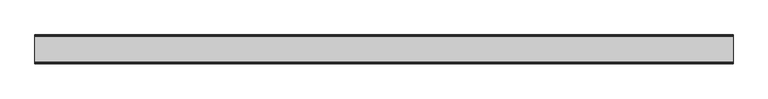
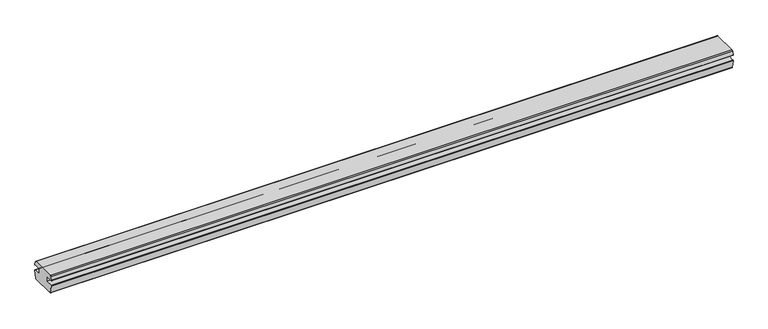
"""IFC4 building model written with IfcOpenShell, lengths in millimetres: proxy geometry, Weiku - Montante - Divisor fixo 02.2.01.041 : Weiku - Montante - Divisor fixo 02.2.01.041."""

from ifc_helpers import new_model, si_unit, point, frame, frame_2d, origin, place, context, project, spatial, polyline, circle_curve, trimmed, segment, composite_curve, outline, extrude, source, transform, mapped, element, save


def generic_models_12b671b4(model_context):
    return source(origin(), model_context, "Body", "SweptSolid", [
        extrude(outline(composite_curve([segment(polyline([(-33.0007245, 50.0), (33.0007245, 50.0)]), True, "CONTINUOUS"), segment(trimmed(circle_curve(frame_2d((33.0007245, 47.0)), 3.0), [point((33.0007245, 50.0))], [point((35.898502, 47.7764571))], False, "CARTESIAN"), True, "CONTINUOUS"), segment(polyline([(35.898502, 47.7764571), (38.4496907, 38.2552914)]), True, "CONTINUOUS"), segment(trimmed(circle_curve(frame_2d((37.8701352, 38.1)), 0.6), [point((38.4496907, 38.2552914))], [point((37.8701352, 37.5))], False, "CARTESIAN"), True, "CONTINUOUS"), segment(polyline([(37.8701352, 37.5), (17.5004577, 37.5), (17.5004577, 23.5), (37.5139562, 23.5)]), True, "CONTINUOUS"), segment(trimmed(circle_curve(frame_2d((37.5139562, 22.5)), 1.0), [point((37.5139562, 23.5))], [point((38.5006041, 22.3371317))], False, "CARTESIAN"), True, "CONTINUOUS"), segment(polyline([(38.5006041, 22.3371317), (34.9515483, 0.8371317)]), True, "CONTINUOUS"), segment(trimmed(circle_curve(frame_2d((33.9649005, 1.0)), 1.0), [point((34.9515483, 0.8371317))], [point((33.9649005, 0.0))], False, "CARTESIAN"), True, "CONTINUOUS"), segment(polyline([(33.9649005, 0.0), (-33.9649005, 0.0)]), True, "CONTINUOUS"), segment(trimmed(circle_curve(frame_2d((-33.9649005, 1.0)), 1.0), [point((-33.9649005, 0.0))], [point((-34.9515483, 0.8371317))], False, "CARTESIAN"), True, "CONTINUOUS"), segment(polyline([(-34.9515483, 0.8371317), (-38.5006041, 22.3371317)]), True, "CONTINUOUS"), segment(trimmed(circle_curve(frame_2d((-37.5139562, 22.5)), 1.0), [point((-38.5006041, 22.3371317))], [point((-37.5139562, 23.5))], False, "CARTESIAN"), True, "CONTINUOUS"), segment(polyline([(-37.5139562, 23.5), (-17.5004577, 23.5), (-17.5004577, 37.5), (-37.8701352, 37.5)]), True, "CONTINUOUS"), segment(trimmed(circle_curve(frame_2d((-37.8701352, 38.1)), 0.6), [point((-37.8701352, 37.5))], [point((-38.4496907, 38.2552914))], False, "CARTESIAN"), True, "CONTINUOUS"), segment(polyline([(-38.4496907, 38.2552914), (-35.898502, 47.7764571)]), True, "CONTINUOUS"), segment(trimmed(circle_curve(frame_2d((-33.0007245, 47.0)), 3.0), [point((-35.898502, 47.7764571))], [point((-33.0007245, 50.0))], False, "CARTESIAN"), True, "CONTINUOUS")], self_intersect=False)), frame((-928.5, 0.0, 0.0), z_axis=(1.0, 0.0, 0.0), x_axis=(0.0, 1.0, 0.0)), (0.0, 0.0, 1.0), 1857.0),
    ])


if __name__ == "__main__":
    model = new_model("IFC4")
    model_context = context("Model", 3, world=origin())
    ifc_project = project(units=[si_unit("LENGTHUNIT", "METRE", prefix="MILLI")], contexts=[model_context])
    site = spatial("IfcSite", under=ifc_project)
    building = spatial("IfcBuilding", under=site)
    placement = place(None, origin())
    generic_models_shape = generic_models_12b671b4(model_context)
    element("IfcBuildingElementProxy", 1, Name="Weiku - Montante - Divisor fixo 02.2.01.041 : Weiku - Montante - Divisor fixo 02.2.01.041", ObjectType="Weiku - Montante - Divisor fixo 02.2.01.041 : Weiku - Montante - Divisor fixo 02.2.01.041", at=placement, inside=building, context=model_context, shape_type="MappedRepresentation", body=[
        mapped(generic_models_shape, transform((0.0, 0.0, 0.0), x_axis=(1.0, 0.0, 0.0), y_axis=(0.0, 1.0, 0.0), z_axis=(0.0, 0.0, 1.0))),
    ])
    save(model, "model.ifc")
